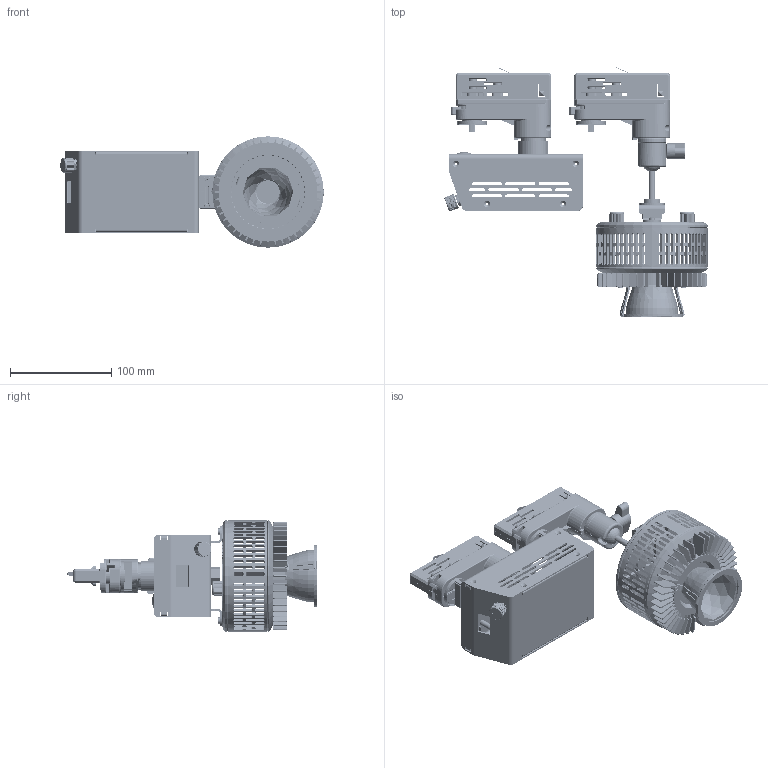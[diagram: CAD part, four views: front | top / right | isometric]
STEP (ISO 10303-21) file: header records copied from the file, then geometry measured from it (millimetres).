
FILE_DESCRIPTION (( 'STEP AP214' ), '1' );
FILE_NAME ('W360N-TOX-PSX.STEP', '2024-01-31T00:47:26', ( '' ), ( '' ), 'SwSTEP 2.0', 'SolidWorks 2022', '' );
FILE_SCHEMA (( 'AUTOMOTIVE_DESIGN' ));
Length unit declared in the file: millimetre
Products named in the file (39): 5021416_A1_Hex Nut, M10xP1.5, T8 SUS___; 5022693-XXX_A1_Bracket, 98.85x25x17.5, T=2.5mm___; 5120521-XXX_A2_Assembly BOM, W360 Light Engine_Finish; 5021925_A1_PLATE, R=37.5, W=50, T=2MM___; 62280-5413010_ _SCREW, FLAT PAN HEAD, TORX W-THD LOCK, SUS-304, M3xL10mm___; 5010176-XXX_A2_Assembly BOM, Kessil W360_35D-TSG; 62432-11100100140040_ _Hex Nuts Customized, M10 P1.0 S14 T4 W-Zinc___; 5020893-2010525020_ _Flat Washer, M10, ID10.5 OD25.0, T2 SUS 304___; 5120526-XXX_A2_Assembly BOM, W360 Reflector Type_Reflector - 35D; 5022398-XXX_A1_Plug for W Series, 19x10x9.4mm_For W360; 5020893-3211020005_ _Flat Washer Customized, Nylon Black, ID11mm OD20mm T0.5mm___; 62280-2163006_ _SCREW, FLAT HEAD TORX W-THD LOCK, SUS-304, BLACK, M3.0 x L6.0mm___; 5120522-XXX_A3_Assembly BOM, W360&W500 Light Mounting Type_For W360_TSG; 5020897-2010216520_ _Helical Spring Washer Customized___; 5022405-XXX_A1_Wing Knob Screws, M6xL8.0mm_-001; 5022376-XXX_A2_150W Power Box Cover, 132.5x79x54.5(H)mm, TEX-PSX Type_PSX; 5020757-002_A2_VR Washer, Kessil A360 Aquarium Light___; 5022516-00031_A1_Button Type Round Hole Plug for KANG YANG, Black___; 62280-1343006_ _SCREW, PAN HEAD TROX W-THD LOCK, SUS-410, BLACK, M3xL6mm___; 5021926-XXX_A2_KNOB, 18T, OD=14.9, ID=6, L=10MM_C1; 62280-1363010_ _SCREW, M3x10mmL, PAN HEAD TORX WITH THREAD LOCK___; 5060069-XXX_A2_W series Reflector-35, OD=62, H=45mm___; Track Adapter-120V 2Circuits (9219-2S)___; 5022445-XXX_A1_DC Plug for W Series, D=12mm_-002(Black); 5022431-XXX_A1_Ball Joint Part A, L=23.7mm___; 5022453-XXX_A1_35D Sink Holder B, 71.2x62.2x31.1(H)mm___; W360N-TOX-PSX; 5022770-XXX_A1_RETAINING COLLAR M10P1.0 FOR ONETRACK POWER BOX OD30x29.8mm___; 5022452-003_A3_Reflector Sink Holder, D108x14.35(H)mm (-004 is White)_-003(Black); 5049819-50120_A2_Wire UL1015 18AWG Latch terminal (6.35x0.8mm) RoHS___; 5120511-XXX_A3_Assembly BOM, Power Box for W360_TOX-PS (2Circuits (9219-2S)); 5120533-XXX_A3_Housing, OD=110, ID=105, T=47.5mm, For Reflector___; 62282-5014005_ _Standard Types of Metric Set Screws, M4xL5, Black___; 5022375-XXX_A4_150W Power Box Frame, 132.5x82x56(H)mm___; 5048736-008_A1_CONN O type terminal RoHS_Close; 5022708-XXX_A2_Ball Joint Axis, L=65.8mm___; 5120532-XXX_A1_Rear Panel, OD=110, T=8.3mm, W-Series_____; 5022430-XXX_A1_Ball Joint Part C (For TDE), L=18.9mm___; 5020757-001_A1_VR Nut, Kessil A360 Aquarium Light___
Assembly tree (51 placements, depth 4):
  W360N-TOX-PSX
    5010176-XXX_A2_Assembly BOM, Kessil W360_35D-TSG
      5120521-XXX_A2_Assembly BOM, W360 Light Engine_Finish
        5120532-XXX_A1_Rear Panel, OD=110, T=8.3mm, W-Series_____
        5022445-XXX_A1_DC Plug for W Series, D=12mm_-002(Black)
        5022398-XXX_A1_Plug for W Series, 19x10x9.4mm_For W360
        62280-1363010_ _SCREW, M3x10mmL, PAN HEAD TORX WITH THREAD LOCK___  x2
        5020757-002_A2_VR Washer, Kessil A360 Aquarium Light___  x2
        5020757-001_A1_VR Nut, Kessil A360 Aquarium Light___  x2
        5021926-XXX_A2_KNOB, 18T, OD=14.9, ID=6, L=10MM_C1  x2
      5120526-XXX_A2_Assembly BOM, W360 Reflector Type_Reflector - 35D
        5120533-XXX_A3_Housing, OD=110, ID=105, T=47.5mm, For Reflector___
        5021925_A1_PLATE, R=37.5, W=50, T=2MM___
        62280-2163006_ _SCREW, FLAT HEAD TORX W-THD LOCK, SUS-304, BLACK, M3.0 x L6.0mm___  x2
        62280-1343006_ _SCREW, PAN HEAD TROX W-THD LOCK, SUS-410, BLACK, M3xL6mm___  x2
        5022452-003_A3_Reflector Sink Holder, D108x14.35(H)mm (-004 is White)_-003(Black)
        5022453-XXX_A1_35D Sink Holder B, 71.2x62.2x31.1(H)mm___
        5060069-XXX_A2_W series Reflector-35, OD=62, H=45mm___
        62280-5413010_ _SCREW, FLAT PAN HEAD, TORX W-THD LOCK, SUS-304, M3xL10mm___  x2
      5120522-XXX_A3_Assembly BOM, W360&W500 Light Mounting Type_For W360_TSG
        5022431-XXX_A1_Ball Joint Part A, L=23.7mm___
        5022430-XXX_A1_Ball Joint Part C (For TDE), L=18.9mm___
        5022708-XXX_A2_Ball Joint Axis, L=65.8mm___
        62282-5014005_ _Standard Types of Metric Set Screws, M4xL5, Black___
        5022405-XXX_A1_Wing Knob Screws, M6xL8.0mm_-001
        5022693-XXX_A1_Bracket, 98.85x25x17.5, T=2.5mm___
        Track Adapter-120V 2Circuits (9219-2S)___
        5020893-2010525020_ _Flat Washer, M10, ID10.5 OD25.0, T2 SUS 304___  x2
        5020897-2010216520_ _Helical Spring Washer Customized___
        5021416_A1_Hex Nut, M10xP1.5, T8 SUS___
    5120511-XXX_A3_Assembly BOM, Power Box for W360_TOX-PS (2Circuits (9219-2S))
      5022375-XXX_A4_150W Power Box Frame, 132.5x82x56(H)mm___
      Track Adapter-120V 2Circuits (9219-2S)___
      5022770-XXX_A1_RETAINING COLLAR M10P1.0 FOR ONETRACK POWER BOX OD30x29.8mm___
      5020893-3211020005_ _Flat Washer Customized, Nylon Black, ID11mm OD20mm T0.5mm___  x2
      5022516-00031_A1_Button Type Round Hole Plug for KANG YANG, Black___
      62432-11100100140040_ _Hex Nuts Customized, M10 P1.0 S14 T4 W-Zinc___
      5049819-50120_A2_Wire UL1015 18AWG Latch terminal (6.35x0.8mm) RoHS___
      5048736-008_A1_CONN O type terminal RoHS_Close
      5022376-XXX_A2_150W Power Box Cover, 132.5x79x54.5(H)mm, TEX-PSX Type_PSX
      5020757-002_A2_VR Washer, Kessil A360 Aquarium Light___
      5020757-001_A1_VR Nut, Kessil A360 Aquarium Light___
      5021926-XXX_A2_KNOB, 18T, OD=14.9, ID=6, L=10MM_C1
Bounding box: 260.27 x 246.27 x 110 mm (x, y, z)
Volume: 237563.1 mm3; surface area: 337824.6 mm2
Topology: 76 solids, 78 shells, 7376 faces, 19560 edges, 12397 vertices
Faces by surface type: plane 2834, cylinder 2688, bspline 900, torus 610, cone 272, sphere 72
Entity records: 217283 total; most frequent: CARTESIAN_POINT 67963, ORIENTED_EDGE 27816, DIRECTION 23218, EDGE_CURVE 13908, VERTEX_POINT 8871, AXIS2_PLACEMENT_3D 7984, VECTOR 7250, LINE 7250
